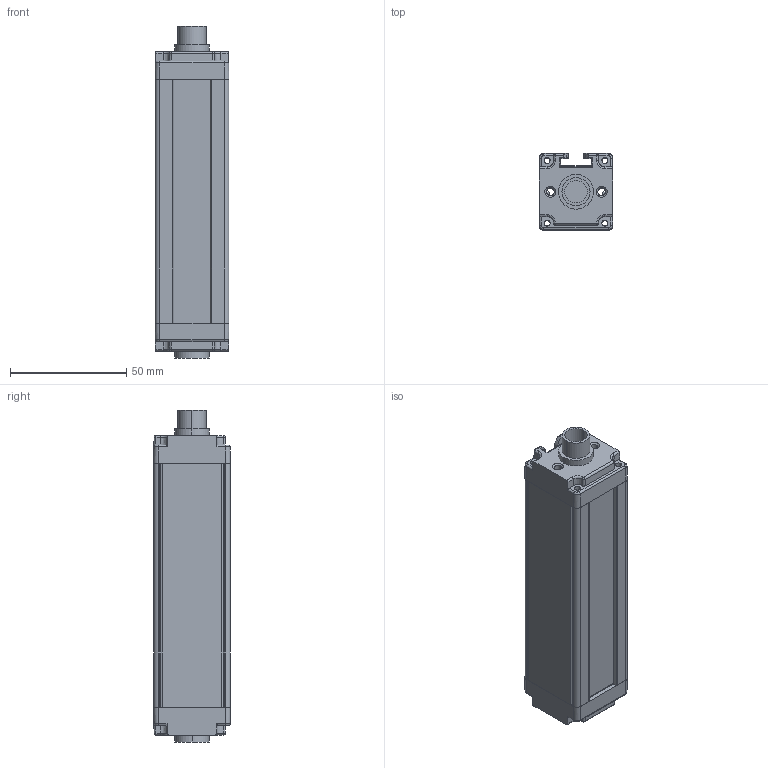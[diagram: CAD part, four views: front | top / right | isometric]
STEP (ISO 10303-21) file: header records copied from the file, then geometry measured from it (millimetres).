
FILE_DESCRIPTION(/* description */ (''),/* implementation_level */ '2;1');
FILE_NAME(/* name */ 'TYG10-08.stp',/* time_stamp */ '2023-08-25T10:08:34+08:00',/* author */ (''),/* organization */ (''),/* preprocessor_version */ 'ST-DEVELOPER v16',/* originating_system */ 'SIEMENS PLM Software NX 11.0',/* authorisation */ '');
FILE_SCHEMA (('AUTOMOTIVE_DESIGN { 1 0 10303 214 3 1 1 1 }'));
Length unit declared in the file: millimetre
Products named in the file (5): YAKELI; B-0823; K-0823; 20230331; TYG10-_stp
Assembly tree (4 placements, depth 2):
  TYG10-_stp
    20230331
    K-0823
    B-0823
    YAKELI
Bounding box: 31.87 x 33.07 x 143 mm (x, y, z)
Volume: 45398.6 mm3; surface area: 49540.1 mm2
Topology: 4 solids, 4 shells, 629 faces, 1887 edges, 1256 vertices
Faces by surface type: plane 346, cylinder 203, cone 36, sphere 16, torus 16, extrusion 8, bspline 4
Entity records: 21871 total; most frequent: CARTESIAN_POINT 4469, ORIENTED_EDGE 3758, DIRECTION 3553, EDGE_CURVE 1879, VERTEX_POINT 1256, AXIS2_PLACEMENT_3D 1188, VECTOR 1177, LINE 1169
